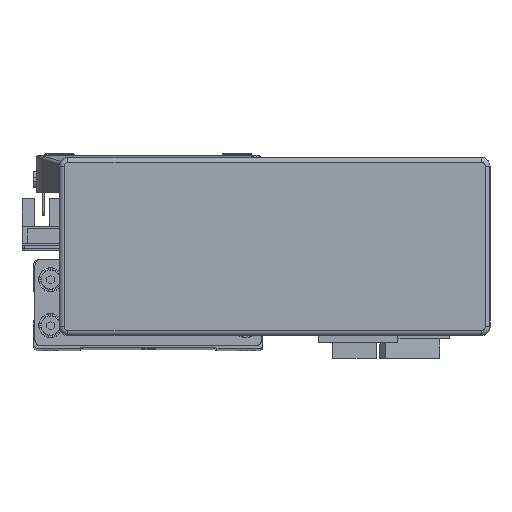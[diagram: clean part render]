
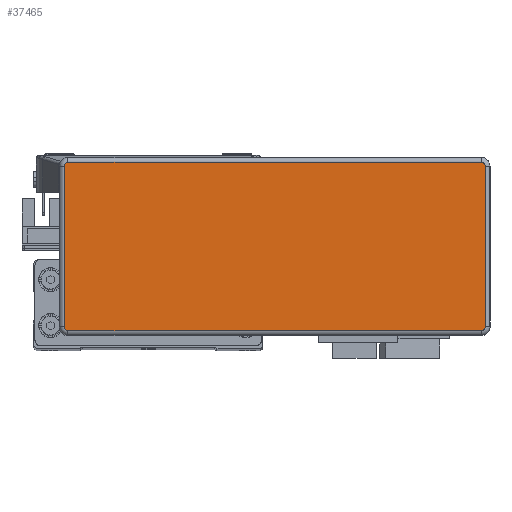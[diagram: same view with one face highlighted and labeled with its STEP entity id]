
A CAD part, top view. The second image highlights one B-rep face of the part: STEP entity #37465.
In plain terms, the highlighted planar face has unit normal (0, 0, 1) as drawn and (0, 0, -1) by its records, which use the part's own axes.
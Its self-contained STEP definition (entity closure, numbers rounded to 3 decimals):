
#250 = EDGE_CURVE ( 'NONE', #30621, #19838, #30039, .T. ) ;
#254 = EDGE_CURVE ( 'NONE', #30612, #30619, #30068, .T. ) ;
#260 = EDGE_CURVE ( 'NONE', #19838, #19797, #30036, .T. ) ;
#283 = EDGE_CURVE ( 'NONE', #19821, #19844, #30127, .T. ) ;
#330 = EDGE_CURVE ( 'NONE', #19797, #19821, #30169, .T. ) ;
#334 = EDGE_CURVE ( 'NONE', #30619, #19802, #30172, .T. ) ;
#342 = EDGE_CURVE ( 'NONE', #19802, #30621, #30149, .T. ) ;
#365 = EDGE_CURVE ( 'NONE', #19844, #30612, #30250, .T. ) ;
#641 = AXIS2_PLACEMENT_3D ( 'NONE', #19530, #19519, #19539 ) ;
#696 = AXIS2_PLACEMENT_3D ( 'NONE', #19584, #19573, #19599 ) ;
#698 = AXIS2_PLACEMENT_3D ( 'NONE', #16074, #16081, #16083 ) ;
#719 = AXIS2_PLACEMENT_3D ( 'NONE', #19596, #19581, #19577 ) ;
#13458 = CARTESIAN_POINT ( 'NONE',  ( 71.995, -29.295, -32.2 ) ) ;
#13465 = CARTESIAN_POINT ( 'NONE',  ( -73.295, 27.995, -32.2 ) ) ;
#13484 = CARTESIAN_POINT ( 'NONE',  ( -71.995, -29.295, -32.2 ) ) ;
#14707 = ORIENTED_EDGE ( 'NONE', *, *, #334, .T. ) ;
#14708 = ORIENTED_EDGE ( 'NONE', *, *, #342, .T. ) ;
#14711 = ORIENTED_EDGE ( 'NONE', *, *, #283, .T. ) ;
#14716 = ORIENTED_EDGE ( 'NONE', *, *, #250, .T. ) ;
#14723 = ORIENTED_EDGE ( 'NONE', *, *, #260, .T. ) ;
#14742 = ORIENTED_EDGE ( 'NONE', *, *, #330, .T. ) ;
#14744 = ORIENTED_EDGE ( 'NONE', *, *, #365, .T. ) ;
#14748 = ORIENTED_EDGE ( 'NONE', *, *, #254, .T. ) ;
#16074 = CARTESIAN_POINT ( 'NONE',  ( 71.995, -27.995, -32.2 ) ) ;
#16081 = DIRECTION ( 'NONE',  ( 0., 0., -1. ) ) ;
#16083 = DIRECTION ( 'NONE',  ( 1., 0., 0. ) ) ;
#19446 = CARTESIAN_POINT ( 'NONE',  ( 71.995, 29.295, -32.2 ) ) ;
#19462 = DIRECTION ( 'NONE',  ( 1., 0., 0. ) ) ;
#19477 = CARTESIAN_POINT ( 'NONE',  ( 73.295, -27.995, -32.2 ) ) ;
#19516 = DIRECTION ( 'NONE',  ( 0., -1., 0. ) ) ;
#19519 = DIRECTION ( 'NONE',  ( 0., 0., -1. ) ) ;
#19528 = DIRECTION ( 'NONE',  ( -1., 0., 0. ) ) ;
#19530 = CARTESIAN_POINT ( 'NONE',  ( -71.995, 27.995, -32.2 ) ) ;
#19531 = CARTESIAN_POINT ( 'NONE',  ( 71.995, -29.295, -32.2 ) ) ;
#19539 = DIRECTION ( 'NONE',  ( 1., 0., 0. ) ) ;
#19573 = DIRECTION ( 'NONE',  ( 0., 0., -1. ) ) ;
#19577 = DIRECTION ( 'NONE',  ( 1., 0., 0. ) ) ;
#19581 = DIRECTION ( 'NONE',  ( 0., 0., -1. ) ) ;
#19584 = CARTESIAN_POINT ( 'NONE',  ( -71.995, -27.995, -32.2 ) ) ;
#19596 = CARTESIAN_POINT ( 'NONE',  ( 71.995, 27.995, -32.2 ) ) ;
#19597 = CARTESIAN_POINT ( 'NONE',  ( -73.295, -27.995, -32.2 ) ) ;
#19599 = DIRECTION ( 'NONE',  ( 1., 0., 0. ) ) ;
#19608 = DIRECTION ( 'NONE',  ( 0., 1., 0. ) ) ;
#19797 = VERTEX_POINT ( 'NONE', #32793 ) ;
#19802 = VERTEX_POINT ( 'NONE', #32820 ) ;
#19821 = VERTEX_POINT ( 'NONE', #32879 ) ;
#19838 = VERTEX_POINT ( 'NONE', #32816 ) ;
#19844 = VERTEX_POINT ( 'NONE', #32923 ) ;
#21923 = EDGE_LOOP ( 'NONE', ( #14711, #14744, #14748, #14707, #14708, #14716, #14723, #14742 ) ) ;
#30036 = LINE ( 'NONE', #19446, #30037 ) ;
#30037 = VECTOR ( 'NONE', #19462, 1000. ) ;
#30039 = CIRCLE ( 'NONE', #641, 1.3 ) ;
#30062 = VECTOR ( 'NONE', #19528, 1000. ) ;
#30068 = LINE ( 'NONE', #19531, #30062 ) ;
#30115 = VECTOR ( 'NONE', #19516, 1000. ) ;
#30127 = LINE ( 'NONE', #19477, #30115 ) ;
#30149 = LINE ( 'NONE', #19597, #30174 ) ;
#30169 = CIRCLE ( 'NONE', #719, 1.3 ) ;
#30172 = CIRCLE ( 'NONE', #696, 1.3 ) ;
#30174 = VECTOR ( 'NONE', #19608, 1000. ) ;
#30250 = CIRCLE ( 'NONE', #698, 1.3 ) ;
#30612 = VERTEX_POINT ( 'NONE', #13458 ) ;
#30619 = VERTEX_POINT ( 'NONE', #13484 ) ;
#30621 = VERTEX_POINT ( 'NONE', #13465 ) ;
#32793 = CARTESIAN_POINT ( 'NONE',  ( 71.995, 29.295, -32.2 ) ) ;
#32816 = CARTESIAN_POINT ( 'NONE',  ( -71.995, 29.295, -32.2 ) ) ;
#32820 = CARTESIAN_POINT ( 'NONE',  ( -73.295, -27.995, -32.2 ) ) ;
#32879 = CARTESIAN_POINT ( 'NONE',  ( 73.295, 27.995, -32.2 ) ) ;
#32923 = CARTESIAN_POINT ( 'NONE',  ( 73.295, -27.995, -32.2 ) ) ;
#36528 = FACE_OUTER_BOUND ( 'NONE', #21923, .T. ) ;
#37465 = ADVANCED_FACE ( 'NONE', ( #36528 ), #39232, .F. ) ;
#39232 = PLANE ( 'NONE',  #40136 ) ;
#39267 = DIRECTION ( 'NONE',  ( 0., 0., 1. ) ) ;
#39269 = CARTESIAN_POINT ( 'NONE',  ( 71.995, -27.995, -32.2 ) ) ;
#39270 = DIRECTION ( 'NONE',  ( 1., 0., 0. ) ) ;
#40136 = AXIS2_PLACEMENT_3D ( 'NONE', #39269, #39267, #39270 ) ;
